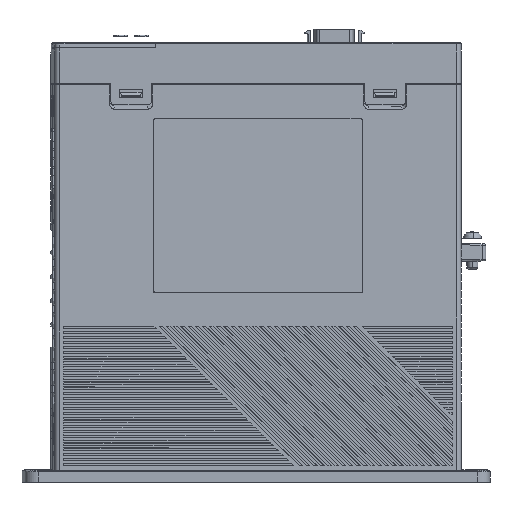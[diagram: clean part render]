
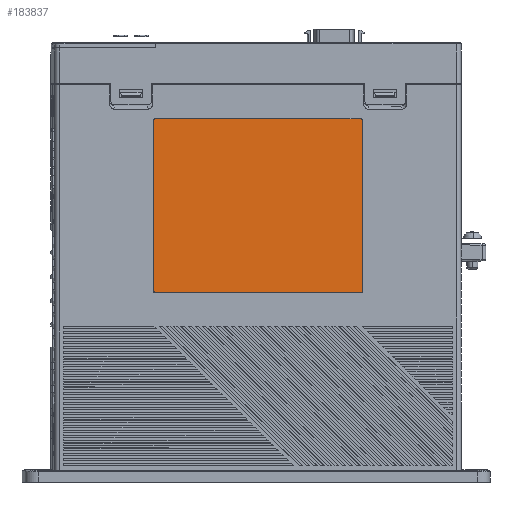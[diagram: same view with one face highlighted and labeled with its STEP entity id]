
A CAD part, top view. The second image highlights one B-rep face of the part: STEP entity #183837.
In plain terms, the highlighted planar face has unit normal (0.036, 0, 0.999).
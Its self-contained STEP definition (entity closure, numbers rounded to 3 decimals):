
#169755=CARTESIAN_POINT('',(50.6,142.504,
114.898));
#169756=CARTESIAN_POINT('',(50.6,142.545,
114.898));
#169757=CARTESIAN_POINT('',(50.61,142.618,
114.897));
#169758=CARTESIAN_POINT('',(50.652,142.741,
114.896));
#169759=CARTESIAN_POINT('',(50.738,142.862,
114.893));
#169760=CARTESIAN_POINT('',(50.859,142.948,
114.888));
#169761=CARTESIAN_POINT('',(50.982,142.99,
114.884));
#169762=CARTESIAN_POINT('',(51.055,143.,114.881));
#169763=CARTESIAN_POINT('',(51.096,143.,114.88));
#169765=DIRECTION('',(0.999,0.,-0.036));
#169766=VECTOR('',#169765,81.007);
#169767=CARTESIAN_POINT('',(51.096,143.,114.88));
#169768=LINE('',#169767,#169766);
#169769=CARTESIAN_POINT('',(132.051,143.,111.953));
#169770=CARTESIAN_POINT('',(132.092,143.,111.952));
#169771=CARTESIAN_POINT('',(132.165,142.99,
111.949));
#169772=CARTESIAN_POINT('',(132.288,142.948,
111.945));
#169773=CARTESIAN_POINT('',(132.409,142.862,
111.94));
#169774=CARTESIAN_POINT('',(132.495,142.741,
111.937));
#169775=CARTESIAN_POINT('',(132.537,142.618,
111.936));
#169776=CARTESIAN_POINT('',(132.547,142.545,
111.935));
#169777=CARTESIAN_POINT('',(132.547,142.504,
111.935));
#169779=DIRECTION('',(0.,-1.,0.));
#169780=VECTOR('',#169779,67.407);
#169781=CARTESIAN_POINT('',(132.547,142.504,
111.935));
#169782=LINE('',#169781,#169780);
#169783=CARTESIAN_POINT('',(132.547,75.096,
111.935));
#169784=CARTESIAN_POINT('',(132.547,75.055,
111.935));
#169785=CARTESIAN_POINT('',(132.537,74.982,
111.936));
#169786=CARTESIAN_POINT('',(132.495,74.859,
111.937));
#169787=CARTESIAN_POINT('',(132.409,74.738,
111.94));
#169788=CARTESIAN_POINT('',(132.288,74.652,
111.945));
#169789=CARTESIAN_POINT('',(132.165,74.61,
111.949));
#169790=CARTESIAN_POINT('',(132.092,74.6,
111.952));
#169791=CARTESIAN_POINT('',(132.051,74.6,
111.953));
#169793=DIRECTION('',(-0.999,0.,0.036));
#169794=VECTOR('',#169793,81.007);
#169795=CARTESIAN_POINT('',(132.051,74.6,111.953));
#169796=LINE('',#169795,#169794);
#169797=CARTESIAN_POINT('',(51.096,74.6,
114.88));
#169798=CARTESIAN_POINT('',(51.055,74.6,
114.881));
#169799=CARTESIAN_POINT('',(50.982,74.61,
114.884));
#169800=CARTESIAN_POINT('',(50.859,74.652,
114.888));
#169801=CARTESIAN_POINT('',(50.738,74.738,
114.893));
#169802=CARTESIAN_POINT('',(50.652,74.859,
114.896));
#169803=CARTESIAN_POINT('',(50.61,74.982,
114.897));
#169804=CARTESIAN_POINT('',(50.6,75.055,
114.898));
#169805=CARTESIAN_POINT('',(50.6,75.096,
114.898));
#169807=DIRECTION('',(0.,1.,0.));
#169808=VECTOR('',#169807,67.407);
#169809=CARTESIAN_POINT('',(50.6,75.096,
114.898));
#169810=LINE('',#169809,#169808);
#174487=CARTESIAN_POINT('',(132.547,142.504,
111.935));
#174488=VERTEX_POINT('',#174487);
#174489=CARTESIAN_POINT('',(132.547,75.096,
111.935));
#174490=VERTEX_POINT('',#174489);
#174491=VERTEX_POINT('',#169769);
#174492=VERTEX_POINT('',#169755);
#174493=VERTEX_POINT('',#169763);
#174494=VERTEX_POINT('',#169791);
#174495=CARTESIAN_POINT('',(51.096,74.6,114.88));
#174496=VERTEX_POINT('',#174495);
#174497=VERTEX_POINT('',#169805);
#183815=CARTESIAN_POINT('',(91.574,5.,113.417));
#183816=DIRECTION('',(0.036,0.,0.999));
#183817=DIRECTION('',(-0.999,0.,0.036));
#183818=AXIS2_PLACEMENT_3D('',#183815,#183816,#183817);
#183819=PLANE('',#183818);
#183821=ORIENTED_EDGE('',*,*,#183820,.T.);
#183823=ORIENTED_EDGE('',*,*,#183822,.T.);
#183825=ORIENTED_EDGE('',*,*,#183824,.T.);
#183826=ORIENTED_EDGE('',*,*,#183803,.T.);
#183828=ORIENTED_EDGE('',*,*,#183827,.T.);
#183830=ORIENTED_EDGE('',*,*,#183829,.T.);
#183832=ORIENTED_EDGE('',*,*,#183831,.T.);
#183834=ORIENTED_EDGE('',*,*,#183833,.T.);
#183835=EDGE_LOOP('',(#183821,#183823,#183825,#183826,#183828,#183830,#183832,
#183834));
#183836=FACE_OUTER_BOUND('',#183835,.F.);
#169764=B_SPLINE_CURVE_WITH_KNOTS('',3,(#169755,#169756,#169757,#169758,#169759,
#169760,#169761,#169762,#169763),.UNSPECIFIED.,.F.,.F.,(4,1,1,1,1,1,4),(0.,
0.125,0.25,0.5,0.75,0.875,1.),.UNSPECIFIED.);
#169778=B_SPLINE_CURVE_WITH_KNOTS('',3,(#169769,#169770,#169771,#169772,#169773,
#169774,#169775,#169776,#169777),.UNSPECIFIED.,.F.,.F.,(4,1,1,1,1,1,4),(0.,
0.125,0.25,0.5,0.75,0.875,1.),.UNSPECIFIED.);
#169792=B_SPLINE_CURVE_WITH_KNOTS('',3,(#169783,#169784,#169785,#169786,#169787,
#169788,#169789,#169790,#169791),.UNSPECIFIED.,.F.,.F.,(4,1,1,1,1,1,4),(0.,
0.125,0.25,0.5,0.75,0.875,1.),.UNSPECIFIED.);
#169806=B_SPLINE_CURVE_WITH_KNOTS('',3,(#169797,#169798,#169799,#169800,#169801,
#169802,#169803,#169804,#169805),.UNSPECIFIED.,.F.,.F.,(4,1,1,1,1,1,4),(0.,
0.125,0.25,0.5,0.75,0.875,1.),.UNSPECIFIED.);
#183803=EDGE_CURVE('',#174488,#174490,#169782,.T.);
#183820=EDGE_CURVE('',#174492,#174493,#169764,.T.);
#183822=EDGE_CURVE('',#174493,#174491,#169768,.T.);
#183824=EDGE_CURVE('',#174491,#174488,#169778,.T.);
#183827=EDGE_CURVE('',#174490,#174494,#169792,.T.);
#183829=EDGE_CURVE('',#174494,#174496,#169796,.T.);
#183831=EDGE_CURVE('',#174496,#174497,#169806,.T.);
#183833=EDGE_CURVE('',#174497,#174492,#169810,.T.);
#183837=ADVANCED_FACE('',(#183836),#183819,.T.);
